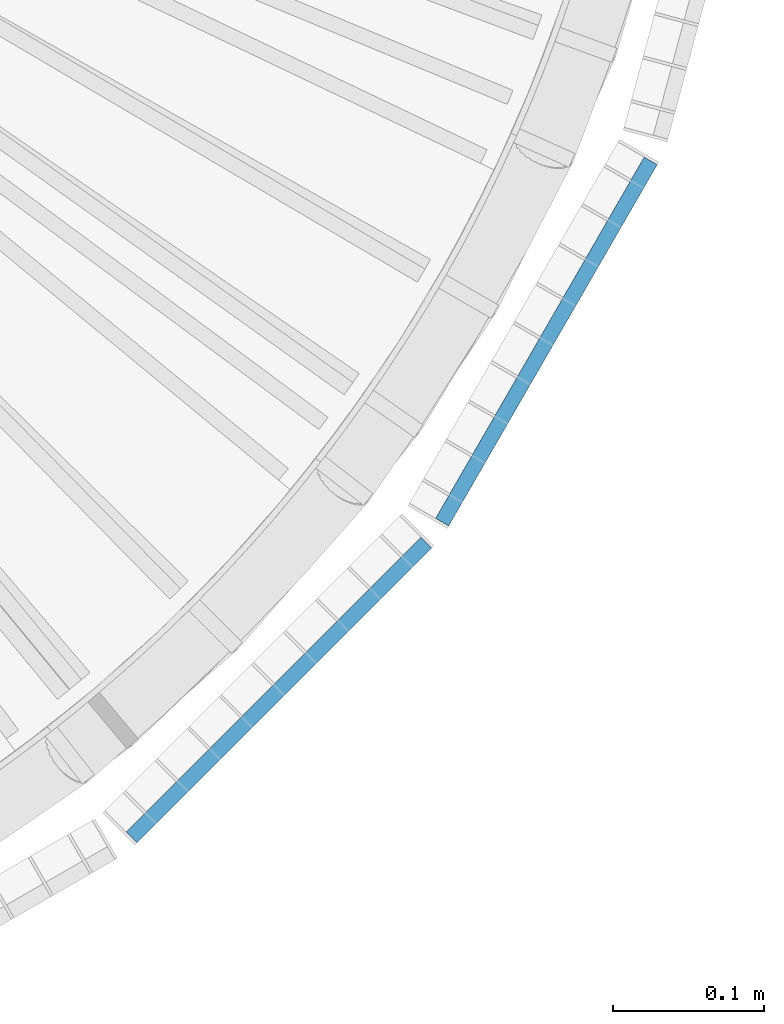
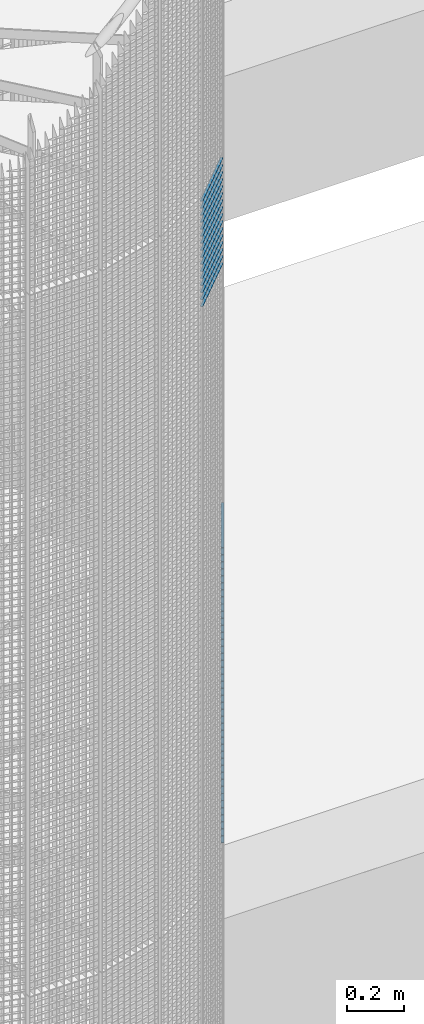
# One storey, part 246 of 1183: 59 beams, 2 elements without a shape of their own.
"""IFC2X3 building model written with IfcOpenShell, lengths in millimetres."""

from ifc_helpers import new_model, si_unit, frame, origin_with_axes, origin_2d_with_axis, place, context, subcontext, project, spatial, rectangle, extrude, material, type_object, element, aggregate, save


model = new_model("IFC2X3")

# Units and contexts
model_context = context("Model", 3, precision=1e-05, world=origin_with_axes())
body_context = subcontext(model_context, "Body", "Model", "MODEL_VIEW")
ifc_project = project(units=[si_unit("LENGTHUNIT", "METRE", prefix="MILLI"), si_unit("AREAUNIT", "SQUARE_METRE"), si_unit("VOLUMEUNIT", "CUBIC_METRE"), si_unit("MASSUNIT", "GRAM", prefix="KILO"), si_unit("TIMEUNIT", "SECOND"), si_unit("PLANEANGLEUNIT", "RADIAN"), si_unit("SOLIDANGLEUNIT", "STERADIAN"), si_unit("THERMODYNAMICTEMPERATUREUNIT", "DEGREE_CELSIUS"), si_unit("LUMINOUSINTENSITYUNIT", "LUMEN")], contexts=[model_context])

# Site, building, storey
site_placement = place(None, origin_with_axes())
site = spatial("IfcSite", under=ifc_project, at=site_placement, Name="Undefined", CompositionType="ELEMENT")
building_placement = place(site_placement, origin_with_axes())
building = spatial("IfcBuilding", under=site, at=building_placement, Name="Undefined", CompositionType="ELEMENT")
storey_placement = place(building_placement, origin_with_axes())
storey = spatial("IfcBuildingStorey", under=building, at=storey_placement, Name="Undefined", CompositionType="ELEMENT", Elevation=0.0)

# Assembly, beams
assembly_1_placement = place(storey_placement, origin_with_axes())
assembly_1 = element("IfcElementAssembly", 1, at=assembly_1_placement, inside=storey, Name="BORDURE", AssemblyPlace="NOTDEFINED", PredefinedType="NOTDEFINED")
ifc_material = material(Name="STEEL/S235JR")
beam_type = type_object("IfcBeamType", Name="PL2*10", PredefinedType="NOTDEFINED")
beam_1_placement = place(assembly_1_placement, frame((895.303964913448, -676.248044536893, 10290.0), z_axis=(0.866025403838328, -0.49999999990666, 0.0), x_axis=(0.49999999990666, 0.866025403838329, 0.0)))
beam_1 = element("IfcBeam", 2, at=beam_1_placement, type_object=beam_type, material=ifc_material, Name="ENTRETOISE", context=body_context, shape_type="SweptSolid", body=[
    extrude(rectangle(XDim=2.0, YDim=10.0, at=origin_2d_with_axis()), frame((275.999999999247, 9.09494701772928e-13, 1.53210777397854e-14), z_axis=(-1.0, 0.0, 0.0), x_axis=(0.0, -1.0, 0.0)), (0.0, 0.0, 1.0), 276.0),
])
beam_2_placement = place(assembly_1_placement, frame((895.303964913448, -676.248044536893, 10260.0), z_axis=(0.866025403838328, -0.49999999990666, 0.0), x_axis=(0.49999999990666, 0.866025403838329, 0.0)))
beam_2 = element("IfcBeam", 3, at=beam_2_placement, type_object=beam_type, material=ifc_material, Name="ENTRETOISE", context=body_context, shape_type="SweptSolid", body=[
    extrude(rectangle(XDim=2.0, YDim=10.0, at=origin_2d_with_axis()), frame((275.999999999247, 9.09494701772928e-13, 1.53210777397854e-14), z_axis=(-1.0, 0.0, 0.0), x_axis=(0.0, -1.0, 0.0)), (0.0, 0.0, 1.0), 276.0),
])
beam_3_placement = place(assembly_1_placement, frame((895.303964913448, -676.248044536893, 10230.0), z_axis=(0.866025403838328, -0.49999999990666, 0.0), x_axis=(0.49999999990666, 0.866025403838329, 0.0)))
beam_3 = element("IfcBeam", 4, at=beam_3_placement, type_object=beam_type, material=ifc_material, Name="ENTRETOISE", context=body_context, shape_type="SweptSolid", body=[
    extrude(rectangle(XDim=2.0, YDim=10.0, at=origin_2d_with_axis()), frame((275.999999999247, 9.09494701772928e-13, 1.53210777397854e-14), z_axis=(-1.0, 0.0, 0.0), x_axis=(0.0, -1.0, 0.0)), (0.0, 0.0, 1.0), 276.0),
])
beam_4_placement = place(assembly_1_placement, frame((895.303964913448, -676.248044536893, 10200.0), z_axis=(0.866025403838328, -0.49999999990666, 0.0), x_axis=(0.49999999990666, 0.866025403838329, 0.0)))
beam_4 = element("IfcBeam", 5, at=beam_4_placement, type_object=beam_type, material=ifc_material, Name="ENTRETOISE", context=body_context, shape_type="SweptSolid", body=[
    extrude(rectangle(XDim=2.0, YDim=10.0, at=origin_2d_with_axis()), frame((275.999999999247, 9.09494701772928e-13, 1.53210777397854e-14), z_axis=(-1.0, 0.0, 0.0), x_axis=(0.0, -1.0, 0.0)), (0.0, 0.0, 1.0), 276.0),
])
beam_5_placement = place(assembly_1_placement, frame((895.303964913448, -676.248044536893, 10170.0), z_axis=(0.866025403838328, -0.49999999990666, 0.0), x_axis=(0.49999999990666, 0.866025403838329, 0.0)))
beam_5 = element("IfcBeam", 6, at=beam_5_placement, type_object=beam_type, material=ifc_material, Name="ENTRETOISE", context=body_context, shape_type="SweptSolid", body=[
    extrude(rectangle(XDim=2.0, YDim=10.0, at=origin_2d_with_axis()), frame((275.999999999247, 9.09494701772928e-13, 1.53210777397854e-14), z_axis=(-1.0, 0.0, 0.0), x_axis=(0.0, -1.0, 0.0)), (0.0, 0.0, 1.0), 276.0),
])
beam_6_placement = place(assembly_1_placement, frame((895.303964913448, -676.248044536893, 10140.0), z_axis=(0.866025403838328, -0.49999999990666, 0.0), x_axis=(0.49999999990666, 0.866025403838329, 0.0)))
beam_6 = element("IfcBeam", 7, at=beam_6_placement, type_object=beam_type, material=ifc_material, Name="ENTRETOISE", context=body_context, shape_type="SweptSolid", body=[
    extrude(rectangle(XDim=2.0, YDim=10.0, at=origin_2d_with_axis()), frame((275.999999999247, 9.09494701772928e-13, 1.53210777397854e-14), z_axis=(-1.0, 0.0, 0.0), x_axis=(0.0, -1.0, 0.0)), (0.0, 0.0, 1.0), 276.0),
])
beam_7_placement = place(assembly_1_placement, frame((895.303964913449, -676.248044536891, 9720.0), z_axis=(0.866025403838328, -0.49999999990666, 0.0), x_axis=(0.49999999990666, 0.866025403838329, 0.0)))
beam_7 = element("IfcBeam", 8, at=beam_7_placement, type_object=beam_type, material=ifc_material, Name="ENTRETOISE", context=body_context, shape_type="SweptSolid", body=[
    extrude(rectangle(XDim=2.0, YDim=10.0, at=origin_2d_with_axis()), frame((275.999999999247, 9.09494701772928e-13, 1.53210777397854e-14), z_axis=(-1.0, 0.0, 0.0), x_axis=(0.0, -1.0, 0.0)), (0.0, 0.0, 1.0), 276.0),
])
beam_8_placement = place(assembly_1_placement, frame((895.303964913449, -676.248044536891, 9690.0), z_axis=(0.866025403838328, -0.49999999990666, 0.0), x_axis=(0.49999999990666, 0.866025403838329, 0.0)))
beam_8 = element("IfcBeam", 9, at=beam_8_placement, type_object=beam_type, material=ifc_material, Name="ENTRETOISE", context=body_context, shape_type="SweptSolid", body=[
    extrude(rectangle(XDim=2.0, YDim=10.0, at=origin_2d_with_axis()), frame((275.999999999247, 9.09494701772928e-13, 1.53210777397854e-14), z_axis=(-1.0, 0.0, 0.0), x_axis=(0.0, -1.0, 0.0)), (0.0, 0.0, 1.0), 276.0),
])
beam_9_placement = place(assembly_1_placement, frame((895.303964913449, -676.248044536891, 9750.0), z_axis=(0.866025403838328, -0.49999999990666, 0.0), x_axis=(0.49999999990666, 0.866025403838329, 0.0)))
beam_9 = element("IfcBeam", 10, at=beam_9_placement, type_object=beam_type, material=ifc_material, Name="ENTRETOISE", context=body_context, shape_type="SweptSolid", body=[
    extrude(rectangle(XDim=2.0, YDim=10.0, at=origin_2d_with_axis()), frame((275.999999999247, 9.09494701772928e-13, 1.53210777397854e-14), z_axis=(-1.0, 0.0, 0.0), x_axis=(0.0, -1.0, 0.0)), (0.0, 0.0, 1.0), 276.0),
])
beam_10_placement = place(assembly_1_placement, frame((895.303964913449, -676.248044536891, 9660.0), z_axis=(0.866025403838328, -0.49999999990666, 0.0), x_axis=(0.49999999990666, 0.866025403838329, 0.0)))
beam_10 = element("IfcBeam", 11, at=beam_10_placement, type_object=beam_type, material=ifc_material, Name="ENTRETOISE", context=body_context, shape_type="SweptSolid", body=[
    extrude(rectangle(XDim=2.0, YDim=10.0, at=origin_2d_with_axis()), frame((275.999999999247, 9.09494701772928e-13, 1.53210777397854e-14), z_axis=(-1.0, 0.0, 0.0), x_axis=(0.0, -1.0, 0.0)), (0.0, 0.0, 1.0), 276.0),
])
beam_11_placement = place(assembly_1_placement, frame((895.303964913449, -676.248044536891, 9630.0), z_axis=(0.866025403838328, -0.49999999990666, 0.0), x_axis=(0.49999999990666, 0.866025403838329, 0.0)))
beam_11 = element("IfcBeam", 12, at=beam_11_placement, type_object=beam_type, material=ifc_material, Name="ENTRETOISE", context=body_context, shape_type="SweptSolid", body=[
    extrude(rectangle(XDim=2.0, YDim=10.0, at=origin_2d_with_axis()), frame((275.999999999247, 9.09494701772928e-13, 1.53210777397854e-14), z_axis=(-1.0, 0.0, 0.0), x_axis=(0.0, -1.0, 0.0)), (0.0, 0.0, 1.0), 276.0),
])
beam_12_placement = place(assembly_1_placement, frame((895.303964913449, -676.248044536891, 9780.0), z_axis=(0.866025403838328, -0.49999999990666, 0.0), x_axis=(0.49999999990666, 0.866025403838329, 0.0)))
beam_12 = element("IfcBeam", 13, at=beam_12_placement, type_object=beam_type, material=ifc_material, Name="ENTRETOISE", context=body_context, shape_type="SweptSolid", body=[
    extrude(rectangle(XDim=2.0, YDim=10.0, at=origin_2d_with_axis()), frame((275.999999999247, 9.09494701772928e-13, 1.53210777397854e-14), z_axis=(-1.0, 0.0, 0.0), x_axis=(0.0, -1.0, 0.0)), (0.0, 0.0, 1.0), 276.0),
])
beam_13_placement = place(assembly_1_placement, frame((895.303964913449, -676.248044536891, 9600.0), z_axis=(0.866025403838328, -0.49999999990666, 0.0), x_axis=(0.49999999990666, 0.866025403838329, 0.0)))
beam_13 = element("IfcBeam", 14, at=beam_13_placement, type_object=beam_type, material=ifc_material, Name="ENTRETOISE", context=body_context, shape_type="SweptSolid", body=[
    extrude(rectangle(XDim=2.0, YDim=10.0, at=origin_2d_with_axis()), frame((275.999999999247, 9.09494701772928e-13, 1.53210777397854e-14), z_axis=(-1.0, 0.0, 0.0), x_axis=(0.0, -1.0, 0.0)), (0.0, 0.0, 1.0), 276.0),
])
beam_14_placement = place(assembly_1_placement, frame((895.303964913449, -676.248044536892, 9810.0), z_axis=(0.866025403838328, -0.49999999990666, 0.0), x_axis=(0.49999999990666, 0.866025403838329, 0.0)))
beam_14 = element("IfcBeam", 15, at=beam_14_placement, type_object=beam_type, material=ifc_material, Name="ENTRETOISE", context=body_context, shape_type="SweptSolid", body=[
    extrude(rectangle(XDim=2.0, YDim=10.0, at=origin_2d_with_axis()), frame((275.999999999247, 9.09494701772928e-13, 1.53210777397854e-14), z_axis=(-1.0, 0.0, 0.0), x_axis=(0.0, -1.0, 0.0)), (0.0, 0.0, 1.0), 276.0),
])
beam_15_placement = place(assembly_1_placement, frame((895.30396491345, -676.248044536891, 9570.0), z_axis=(0.866025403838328, -0.49999999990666, 0.0), x_axis=(0.49999999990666, 0.866025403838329, 0.0)))
beam_15 = element("IfcBeam", 16, at=beam_15_placement, type_object=beam_type, material=ifc_material, Name="ENTRETOISE", context=body_context, shape_type="SweptSolid", body=[
    extrude(rectangle(XDim=2.0, YDim=10.0, at=origin_2d_with_axis()), frame((275.999999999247, 9.09494701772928e-13, 1.53210777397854e-14), z_axis=(-1.0, 0.0, 0.0), x_axis=(0.0, -1.0, 0.0)), (0.0, 0.0, 1.0), 276.0),
])
beam_16_placement = place(assembly_1_placement, frame((895.30396491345, -676.248044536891, 9540.0), z_axis=(0.866025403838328, -0.49999999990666, 0.0), x_axis=(0.49999999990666, 0.866025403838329, 0.0)))
beam_16 = element("IfcBeam", 17, at=beam_16_placement, type_object=beam_type, material=ifc_material, Name="ENTRETOISE", context=body_context, shape_type="SweptSolid", body=[
    extrude(rectangle(XDim=2.0, YDim=10.0, at=origin_2d_with_axis()), frame((275.999999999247, 9.09494701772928e-13, 1.53210777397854e-14), z_axis=(-1.0, 0.0, 0.0), x_axis=(0.0, -1.0, 0.0)), (0.0, 0.0, 1.0), 276.0),
])
beam_17_placement = place(assembly_1_placement, frame((895.303964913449, -676.248044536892, 9840.0), z_axis=(0.866025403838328, -0.49999999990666, 0.0), x_axis=(0.49999999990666, 0.866025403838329, 0.0)))
beam_17 = element("IfcBeam", 18, at=beam_17_placement, type_object=beam_type, material=ifc_material, Name="ENTRETOISE", context=body_context, shape_type="SweptSolid", body=[
    extrude(rectangle(XDim=2.0, YDim=10.0, at=origin_2d_with_axis()), frame((275.999999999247, 9.09494701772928e-13, 1.53210777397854e-14), z_axis=(-1.0, 0.0, 0.0), x_axis=(0.0, -1.0, 0.0)), (0.0, 0.0, 1.0), 276.0),
])
beam_18_placement = place(assembly_1_placement, frame((895.303964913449, -676.248044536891, 9510.0), z_axis=(0.866025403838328, -0.49999999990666, 0.0), x_axis=(0.49999999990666, 0.866025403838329, 0.0)))
beam_18 = element("IfcBeam", 19, at=beam_18_placement, type_object=beam_type, material=ifc_material, Name="ENTRETOISE", context=body_context, shape_type="SweptSolid", body=[
    extrude(rectangle(XDim=2.0, YDim=10.0, at=origin_2d_with_axis()), frame((275.999999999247, 9.09494701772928e-13, 1.53210777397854e-14), z_axis=(-1.0, 0.0, 0.0), x_axis=(0.0, -1.0, 0.0)), (0.0, 0.0, 1.0), 276.0),
])
beam_19_placement = place(assembly_1_placement, frame((895.303964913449, -676.248044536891, 9480.0), z_axis=(0.866025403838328, -0.49999999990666, 0.0), x_axis=(0.49999999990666, 0.866025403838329, 0.0)))
beam_19 = element("IfcBeam", 20, at=beam_19_placement, type_object=beam_type, material=ifc_material, Name="ENTRETOISE", context=body_context, shape_type="SweptSolid", body=[
    extrude(rectangle(XDim=2.0, YDim=10.0, at=origin_2d_with_axis()), frame((275.999999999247, 9.09494701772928e-13, 1.53210777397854e-14), z_axis=(-1.0, 0.0, 0.0), x_axis=(0.0, -1.0, 0.0)), (0.0, 0.0, 1.0), 276.0),
])
beam_20_placement = place(assembly_1_placement, frame((895.303964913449, -676.248044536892, 9870.0), z_axis=(0.866025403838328, -0.49999999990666, 0.0), x_axis=(0.49999999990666, 0.866025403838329, 0.0)))
beam_20 = element("IfcBeam", 21, at=beam_20_placement, type_object=beam_type, material=ifc_material, Name="ENTRETOISE", context=body_context, shape_type="SweptSolid", body=[
    extrude(rectangle(XDim=2.0, YDim=10.0, at=origin_2d_with_axis()), frame((275.999999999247, 9.09494701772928e-13, 1.53210777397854e-14), z_axis=(-1.0, 0.0, 0.0), x_axis=(0.0, -1.0, 0.0)), (0.0, 0.0, 1.0), 276.0),
])
beam_21_placement = place(assembly_1_placement, frame((895.30396491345, -676.248044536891, 9450.0), z_axis=(0.866025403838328, -0.49999999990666, 0.0), x_axis=(0.49999999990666, 0.866025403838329, 0.0)))
beam_21 = element("IfcBeam", 22, at=beam_21_placement, type_object=beam_type, material=ifc_material, Name="ENTRETOISE", context=body_context, shape_type="SweptSolid", body=[
    extrude(rectangle(XDim=2.0, YDim=10.0, at=origin_2d_with_axis()), frame((275.999999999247, 9.09494701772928e-13, 1.53210777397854e-14), z_axis=(-1.0, 0.0, 0.0), x_axis=(0.0, -1.0, 0.0)), (0.0, 0.0, 1.0), 276.0),
])
beam_22_placement = place(assembly_1_placement, frame((895.30396491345, -676.24804453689, 9420.0), z_axis=(0.866025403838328, -0.49999999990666, 0.0), x_axis=(0.49999999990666, 0.866025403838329, 0.0)))
beam_22 = element("IfcBeam", 23, at=beam_22_placement, type_object=beam_type, material=ifc_material, Name="ENTRETOISE", context=body_context, shape_type="SweptSolid", body=[
    extrude(rectangle(XDim=2.0, YDim=10.0, at=origin_2d_with_axis()), frame((275.999999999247, 9.09494701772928e-13, 1.53210777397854e-14), z_axis=(-1.0, 0.0, 0.0), x_axis=(0.0, -1.0, 0.0)), (0.0, 0.0, 1.0), 276.0),
])
beam_23_placement = place(assembly_1_placement, frame((895.303964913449, -676.248044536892, 9900.0), z_axis=(0.866025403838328, -0.49999999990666, 0.0), x_axis=(0.49999999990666, 0.866025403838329, 0.0)))
beam_23 = element("IfcBeam", 24, at=beam_23_placement, type_object=beam_type, material=ifc_material, Name="ENTRETOISE", context=body_context, shape_type="SweptSolid", body=[
    extrude(rectangle(XDim=2.0, YDim=10.0, at=origin_2d_with_axis()), frame((275.999999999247, 9.09494701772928e-13, 1.53210777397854e-14), z_axis=(-1.0, 0.0, 0.0), x_axis=(0.0, -1.0, 0.0)), (0.0, 0.0, 1.0), 276.0),
])
beam_24_placement = place(assembly_1_placement, frame((895.30396491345, -676.24804453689, 9390.0), z_axis=(0.866025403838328, -0.49999999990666, 0.0), x_axis=(0.49999999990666, 0.866025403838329, 0.0)))
beam_24 = element("IfcBeam", 25, at=beam_24_placement, type_object=beam_type, material=ifc_material, Name="ENTRETOISE", context=body_context, shape_type="SweptSolid", body=[
    extrude(rectangle(XDim=2.0, YDim=10.0, at=origin_2d_with_axis()), frame((275.999999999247, 9.09494701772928e-13, 1.53210777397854e-14), z_axis=(-1.0, 0.0, 0.0), x_axis=(0.0, -1.0, 0.0)), (0.0, 0.0, 1.0), 276.0),
])
beam_25_placement = place(assembly_1_placement, frame((895.303964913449, -676.248044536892, 9930.0), z_axis=(0.866025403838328, -0.49999999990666, 0.0), x_axis=(0.49999999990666, 0.866025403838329, 0.0)))
beam_25 = element("IfcBeam", 26, at=beam_25_placement, type_object=beam_type, material=ifc_material, Name="ENTRETOISE", context=body_context, shape_type="SweptSolid", body=[
    extrude(rectangle(XDim=2.0, YDim=10.0, at=origin_2d_with_axis()), frame((275.999999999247, 9.09494701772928e-13, 1.53210777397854e-14), z_axis=(-1.0, 0.0, 0.0), x_axis=(0.0, -1.0, 0.0)), (0.0, 0.0, 1.0), 276.0),
])
beam_26_placement = place(assembly_1_placement, frame((895.30396491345, -676.24804453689, 9360.0), z_axis=(0.866025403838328, -0.49999999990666, 0.0), x_axis=(0.49999999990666, 0.866025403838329, 0.0)))
beam_26 = element("IfcBeam", 27, at=beam_26_placement, type_object=beam_type, material=ifc_material, Name="ENTRETOISE", context=body_context, shape_type="SweptSolid", body=[
    extrude(rectangle(XDim=2.0, YDim=10.0, at=origin_2d_with_axis()), frame((275.999999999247, 9.09494701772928e-13, 1.53210777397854e-14), z_axis=(-1.0, 0.0, 0.0), x_axis=(0.0, -1.0, 0.0)), (0.0, 0.0, 1.0), 276.0),
])
beam_27_placement = place(assembly_1_placement, frame((895.30396491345, -676.24804453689, 9330.0), z_axis=(0.866025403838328, -0.49999999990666, 0.0), x_axis=(0.49999999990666, 0.866025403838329, 0.0)))
beam_27 = element("IfcBeam", 28, at=beam_27_placement, type_object=beam_type, material=ifc_material, Name="ENTRETOISE", context=body_context, shape_type="SweptSolid", body=[
    extrude(rectangle(XDim=2.0, YDim=10.0, at=origin_2d_with_axis()), frame((275.999999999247, 9.09494701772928e-13, 1.53210777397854e-14), z_axis=(-1.0, 0.0, 0.0), x_axis=(0.0, -1.0, 0.0)), (0.0, 0.0, 1.0), 276.0),
])
beam_28_placement = place(assembly_1_placement, frame((895.303964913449, -676.248044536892, 9960.0), z_axis=(0.866025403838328, -0.49999999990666, 0.0), x_axis=(0.49999999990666, 0.866025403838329, 0.0)))
beam_28 = element("IfcBeam", 29, at=beam_28_placement, type_object=beam_type, material=ifc_material, Name="ENTRETOISE", context=body_context, shape_type="SweptSolid", body=[
    extrude(rectangle(XDim=2.0, YDim=10.0, at=origin_2d_with_axis()), frame((275.999999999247, 9.09494701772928e-13, 1.53210777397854e-14), z_axis=(-1.0, 0.0, 0.0), x_axis=(0.0, -1.0, 0.0)), (0.0, 0.0, 1.0), 276.0),
])
beam_29_placement = place(assembly_1_placement, frame((895.30396491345, -676.24804453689, 9300.0), z_axis=(0.866025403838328, -0.49999999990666, 0.0), x_axis=(0.49999999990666, 0.866025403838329, 0.0)))
beam_29 = element("IfcBeam", 30, at=beam_29_placement, type_object=beam_type, material=ifc_material, Name="ENTRETOISE", context=body_context, shape_type="SweptSolid", body=[
    extrude(rectangle(XDim=2.0, YDim=10.0, at=origin_2d_with_axis()), frame((275.999999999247, 9.09494701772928e-13, 1.53210777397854e-14), z_axis=(-1.0, 0.0, 0.0), x_axis=(0.0, -1.0, 0.0)), (0.0, 0.0, 1.0), 276.0),
])
beam_30_placement = place(assembly_1_placement, frame((895.30396491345, -676.24804453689, 9270.0), z_axis=(0.866025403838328, -0.49999999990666, 0.0), x_axis=(0.49999999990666, 0.866025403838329, 0.0)))
beam_30 = element("IfcBeam", 31, at=beam_30_placement, type_object=beam_type, material=ifc_material, Name="ENTRETOISE", context=body_context, shape_type="SweptSolid", body=[
    extrude(rectangle(XDim=2.0, YDim=10.0, at=origin_2d_with_axis()), frame((275.999999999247, 9.09494701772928e-13, 1.53210777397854e-14), z_axis=(-1.0, 0.0, 0.0), x_axis=(0.0, -1.0, 0.0)), (0.0, 0.0, 1.0), 276.0),
])
beam_31_placement = place(assembly_1_placement, frame((895.303964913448, -676.248044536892, 9990.0), z_axis=(0.866025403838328, -0.49999999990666, 0.0), x_axis=(0.49999999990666, 0.866025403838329, 0.0)))
beam_31 = element("IfcBeam", 32, at=beam_31_placement, type_object=beam_type, material=ifc_material, Name="ENTRETOISE", context=body_context, shape_type="SweptSolid", body=[
    extrude(rectangle(XDim=2.0, YDim=10.0, at=origin_2d_with_axis()), frame((275.999999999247, 9.09494701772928e-13, 1.53210777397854e-14), z_axis=(-1.0, 0.0, 0.0), x_axis=(0.0, -1.0, 0.0)), (0.0, 0.0, 1.0), 276.0),
])
beam_32_placement = place(assembly_1_placement, frame((895.30396491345, -676.24804453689, 9240.0), z_axis=(0.866025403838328, -0.49999999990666, 0.0), x_axis=(0.49999999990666, 0.866025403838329, 0.0)))
beam_32 = element("IfcBeam", 33, at=beam_32_placement, type_object=beam_type, material=ifc_material, Name="ENTRETOISE", context=body_context, shape_type="SweptSolid", body=[
    extrude(rectangle(XDim=2.0, YDim=10.0, at=origin_2d_with_axis()), frame((275.999999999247, 9.09494701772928e-13, 1.53210777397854e-14), z_axis=(-1.0, 0.0, 0.0), x_axis=(0.0, -1.0, 0.0)), (0.0, 0.0, 1.0), 276.0),
])
beam_33_placement = place(assembly_1_placement, frame((895.303964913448, -676.248044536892, 10020.0), z_axis=(0.866025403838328, -0.49999999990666, 0.0), x_axis=(0.49999999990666, 0.866025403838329, 0.0)))
beam_33 = element("IfcBeam", 34, at=beam_33_placement, type_object=beam_type, material=ifc_material, Name="ENTRETOISE", context=body_context, shape_type="SweptSolid", body=[
    extrude(rectangle(XDim=2.0, YDim=10.0, at=origin_2d_with_axis()), frame((275.999999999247, 9.09494701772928e-13, 1.53210777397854e-14), z_axis=(-1.0, 0.0, 0.0), x_axis=(0.0, -1.0, 0.0)), (0.0, 0.0, 1.0), 276.0),
])
beam_34_placement = place(assembly_1_placement, frame((895.30396491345, -676.24804453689, 9210.0), z_axis=(0.866025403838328, -0.49999999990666, 0.0), x_axis=(0.49999999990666, 0.866025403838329, 0.0)))
beam_34 = element("IfcBeam", 35, at=beam_34_placement, type_object=beam_type, material=ifc_material, Name="ENTRETOISE", context=body_context, shape_type="SweptSolid", body=[
    extrude(rectangle(XDim=2.0, YDim=10.0, at=origin_2d_with_axis()), frame((275.999999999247, 9.09494701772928e-13, 1.53210777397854e-14), z_axis=(-1.0, 0.0, 0.0), x_axis=(0.0, -1.0, 0.0)), (0.0, 0.0, 1.0), 276.0),
])
beam_35_placement = place(assembly_1_placement, frame((895.30396491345, -676.24804453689, 9180.0), z_axis=(0.866025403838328, -0.49999999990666, 0.0), x_axis=(0.49999999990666, 0.866025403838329, 0.0)))
beam_35 = element("IfcBeam", 36, at=beam_35_placement, type_object=beam_type, material=ifc_material, Name="ENTRETOISE", context=body_context, shape_type="SweptSolid", body=[
    extrude(rectangle(XDim=2.0, YDim=10.0, at=origin_2d_with_axis()), frame((275.999999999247, 9.09494701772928e-13, 1.53210777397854e-14), z_axis=(-1.0, 0.0, 0.0), x_axis=(0.0, -1.0, 0.0)), (0.0, 0.0, 1.0), 276.0),
])
beam_36_placement = place(assembly_1_placement, frame((895.303964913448, -676.248044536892, 10050.0), z_axis=(0.866025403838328, -0.49999999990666, 0.0), x_axis=(0.49999999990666, 0.866025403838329, 0.0)))
beam_36 = element("IfcBeam", 37, at=beam_36_placement, type_object=beam_type, material=ifc_material, Name="ENTRETOISE", context=body_context, shape_type="SweptSolid", body=[
    extrude(rectangle(XDim=2.0, YDim=10.0, at=origin_2d_with_axis()), frame((275.999999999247, 9.09494701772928e-13, 1.53210777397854e-14), z_axis=(-1.0, 0.0, 0.0), x_axis=(0.0, -1.0, 0.0)), (0.0, 0.0, 1.0), 276.0),
])
beam_37_placement = place(assembly_1_placement, frame((895.30396491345, -676.24804453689, 9150.0), z_axis=(0.866025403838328, -0.49999999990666, 0.0), x_axis=(0.49999999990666, 0.866025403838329, 0.0)))
beam_37 = element("IfcBeam", 38, at=beam_37_placement, type_object=beam_type, material=ifc_material, Name="ENTRETOISE", context=body_context, shape_type="SweptSolid", body=[
    extrude(rectangle(XDim=2.0, YDim=10.0, at=origin_2d_with_axis()), frame((275.999999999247, 9.09494701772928e-13, 1.53210777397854e-14), z_axis=(-1.0, 0.0, 0.0), x_axis=(0.0, -1.0, 0.0)), (0.0, 0.0, 1.0), 276.0),
])
beam_38_placement = place(assembly_1_placement, frame((895.30396491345, -676.24804453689, 9120.0), z_axis=(0.866025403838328, -0.49999999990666, 0.0), x_axis=(0.49999999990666, 0.866025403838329, 0.0)))
beam_38 = element("IfcBeam", 39, at=beam_38_placement, type_object=beam_type, material=ifc_material, Name="ENTRETOISE", context=body_context, shape_type="SweptSolid", body=[
    extrude(rectangle(XDim=2.0, YDim=10.0, at=origin_2d_with_axis()), frame((275.999999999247, 9.09494701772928e-13, 1.53210777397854e-14), z_axis=(-1.0, 0.0, 0.0), x_axis=(0.0, -1.0, 0.0)), (0.0, 0.0, 1.0), 276.0),
])
beam_39_placement = place(assembly_1_placement, frame((895.303964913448, -676.248044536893, 10080.0), z_axis=(0.866025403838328, -0.49999999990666, 0.0), x_axis=(0.49999999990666, 0.866025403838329, 0.0)))
beam_39 = element("IfcBeam", 40, at=beam_39_placement, type_object=beam_type, material=ifc_material, Name="ENTRETOISE", context=body_context, shape_type="SweptSolid", body=[
    extrude(rectangle(XDim=2.0, YDim=10.0, at=origin_2d_with_axis()), frame((275.999999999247, 9.09494701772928e-13, 1.53210777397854e-14), z_axis=(-1.0, 0.0, 0.0), x_axis=(0.0, -1.0, 0.0)), (0.0, 0.0, 1.0), 276.0),
])
beam_40_placement = place(assembly_1_placement, frame((895.30396491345, -676.248044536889, 9090.0), z_axis=(0.866025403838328, -0.49999999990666, 0.0), x_axis=(0.49999999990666, 0.866025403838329, 0.0)))
beam_40 = element("IfcBeam", 41, at=beam_40_placement, type_object=beam_type, material=ifc_material, Name="ENTRETOISE", context=body_context, shape_type="SweptSolid", body=[
    extrude(rectangle(XDim=2.0, YDim=10.0, at=origin_2d_with_axis()), frame((275.999999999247, 9.09494701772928e-13, 1.53210777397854e-14), z_axis=(-1.0, 0.0, 0.0), x_axis=(0.0, -1.0, 0.0)), (0.0, 0.0, 1.0), 276.0),
])
beam_41_placement = place(assembly_1_placement, frame((895.30396491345, -676.248044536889, 9060.0), z_axis=(0.866025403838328, -0.49999999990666, 0.0), x_axis=(0.49999999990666, 0.866025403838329, 0.0)))
beam_41 = element("IfcBeam", 42, at=beam_41_placement, type_object=beam_type, material=ifc_material, Name="ENTRETOISE", context=body_context, shape_type="SweptSolid", body=[
    extrude(rectangle(XDim=2.0, YDim=10.0, at=origin_2d_with_axis()), frame((275.999999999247, 9.09494701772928e-13, 1.53210777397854e-14), z_axis=(-1.0, 0.0, 0.0), x_axis=(0.0, -1.0, 0.0)), (0.0, 0.0, 1.0), 276.0),
])
beam_42_placement = place(assembly_1_placement, frame((895.303964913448, -676.248044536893, 10110.0), z_axis=(0.866025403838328, -0.49999999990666, 0.0), x_axis=(0.49999999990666, 0.866025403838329, 0.0)))
beam_42 = element("IfcBeam", 43, at=beam_42_placement, type_object=beam_type, material=ifc_material, Name="ENTRETOISE", context=body_context, shape_type="SweptSolid", body=[
    extrude(rectangle(XDim=2.0, YDim=10.0, at=origin_2d_with_axis()), frame((275.999999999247, 9.09494701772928e-13, 1.53210777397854e-14), z_axis=(-1.0, 0.0, 0.0), x_axis=(0.0, -1.0, 0.0)), (0.0, 0.0, 1.0), 276.0),
])
beam_43_placement = place(assembly_1_placement, frame((895.30396491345, -676.248044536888, 9030.0), z_axis=(0.866025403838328, -0.49999999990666, 0.0), x_axis=(0.49999999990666, 0.866025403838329, 0.0)))
beam_43 = element("IfcBeam", 44, at=beam_43_placement, type_object=beam_type, material=ifc_material, Name="ENTRETOISE", context=body_context, shape_type="SweptSolid", body=[
    extrude(rectangle(XDim=2.0, YDim=10.0, at=origin_2d_with_axis()), frame((275.999999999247, 9.09494701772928e-13, 1.53210777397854e-14), z_axis=(-1.0, 0.0, 0.0), x_axis=(0.0, -1.0, 0.0)), (0.0, 0.0, 1.0), 276.0),
])
aggregate(assembly_1, [beam_1, beam_2, beam_3, beam_4, beam_5, beam_6, beam_7, beam_8, beam_9, beam_10, beam_11, beam_12, beam_13, beam_14, beam_15, beam_16, beam_17, beam_18, beam_19, beam_20, beam_21, beam_22, beam_23, beam_24, beam_25, beam_26, beam_27, beam_28, beam_29, beam_30, beam_31, beam_32, beam_33, beam_34, beam_35, beam_36, beam_37, beam_38, beam_39, beam_40, beam_41, beam_42, beam_43])

assembly_2_placement = place(storey_placement, origin_with_axes())
assembly_2 = element("IfcElementAssembly", 45, at=assembly_2_placement, inside=storey, Name="BORDURE", AssemblyPlace="NOTDEFINED", PredefinedType="NOTDEFINED")
beam_44_placement = place(assembly_2_placement, frame((689.771348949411, -884.927168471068, 11970.0), z_axis=(0.707106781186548, -0.707106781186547, 0.0), x_axis=(0.707106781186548, 0.707106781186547, 0.0)))
beam_44 = element("IfcBeam", 46, at=beam_44_placement, type_object=beam_type, material=ifc_material, Name="ENTRETOISE", context=body_context, shape_type="SweptSolid", body=[
    extrude(rectangle(XDim=2.0, YDim=10.0, at=origin_2d_with_axis()), frame((275.999999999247, 9.09494701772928e-13, 1.53210777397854e-14), z_axis=(-1.0, 0.0, 0.0), x_axis=(0.0, -1.0, 0.0)), (0.0, 0.0, 1.0), 276.0),
])
beam_45_placement = place(assembly_2_placement, frame((689.771348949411, -884.927168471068, 11940.0), z_axis=(0.707106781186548, -0.707106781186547, 0.0), x_axis=(0.707106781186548, 0.707106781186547, 0.0)))
beam_45 = element("IfcBeam", 47, at=beam_45_placement, type_object=beam_type, material=ifc_material, Name="ENTRETOISE", context=body_context, shape_type="SweptSolid", body=[
    extrude(rectangle(XDim=2.0, YDim=10.0, at=origin_2d_with_axis()), frame((275.999999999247, 9.09494701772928e-13, 1.53210777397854e-14), z_axis=(-1.0, 0.0, 0.0), x_axis=(0.0, -1.0, 0.0)), (0.0, 0.0, 1.0), 276.0),
])
beam_46_placement = place(assembly_2_placement, frame((689.771348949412, -884.927168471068, 11910.0), z_axis=(0.707106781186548, -0.707106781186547, 0.0), x_axis=(0.707106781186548, 0.707106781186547, 0.0)))
beam_46 = element("IfcBeam", 48, at=beam_46_placement, type_object=beam_type, material=ifc_material, Name="ENTRETOISE", context=body_context, shape_type="SweptSolid", body=[
    extrude(rectangle(XDim=2.0, YDim=10.0, at=origin_2d_with_axis()), frame((275.999999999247, 9.09494701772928e-13, 1.53210777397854e-14), z_axis=(-1.0, 0.0, 0.0), x_axis=(0.0, -1.0, 0.0)), (0.0, 0.0, 1.0), 276.0),
])
beam_47_placement = place(assembly_2_placement, frame((689.771348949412, -884.927168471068, 11880.0), z_axis=(0.707106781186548, -0.707106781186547, 0.0), x_axis=(0.707106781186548, 0.707106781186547, 0.0)))
beam_47 = element("IfcBeam", 49, at=beam_47_placement, type_object=beam_type, material=ifc_material, Name="ENTRETOISE", context=body_context, shape_type="SweptSolid", body=[
    extrude(rectangle(XDim=2.0, YDim=10.0, at=origin_2d_with_axis()), frame((275.999999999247, 9.09494701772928e-13, 1.53210777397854e-14), z_axis=(-1.0, 0.0, 0.0), x_axis=(0.0, -1.0, 0.0)), (0.0, 0.0, 1.0), 276.0),
])
beam_48_placement = place(assembly_2_placement, frame((689.771348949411, -884.927168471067, 11850.0), z_axis=(0.707106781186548, -0.707106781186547, 0.0), x_axis=(0.707106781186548, 0.707106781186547, 0.0)))
beam_48 = element("IfcBeam", 50, at=beam_48_placement, type_object=beam_type, material=ifc_material, Name="ENTRETOISE", context=body_context, shape_type="SweptSolid", body=[
    extrude(rectangle(XDim=2.0, YDim=10.0, at=origin_2d_with_axis()), frame((275.999999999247, 9.09494701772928e-13, 1.53210777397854e-14), z_axis=(-1.0, 0.0, 0.0), x_axis=(0.0, -1.0, 0.0)), (0.0, 0.0, 1.0), 276.0),
])
beam_49_placement = place(assembly_2_placement, frame((689.771348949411, -884.927168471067, 11820.0), z_axis=(0.707106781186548, -0.707106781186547, 0.0), x_axis=(0.707106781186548, 0.707106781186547, 0.0)))
beam_49 = element("IfcBeam", 51, at=beam_49_placement, type_object=beam_type, material=ifc_material, Name="ENTRETOISE", context=body_context, shape_type="SweptSolid", body=[
    extrude(rectangle(XDim=2.0, YDim=10.0, at=origin_2d_with_axis()), frame((275.999999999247, 9.09494701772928e-13, 1.53210777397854e-14), z_axis=(-1.0, 0.0, 0.0), x_axis=(0.0, -1.0, 0.0)), (0.0, 0.0, 1.0), 276.0),
])
beam_50_placement = place(assembly_2_placement, frame((689.771348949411, -884.927168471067, 11790.0), z_axis=(0.707106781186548, -0.707106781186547, 0.0), x_axis=(0.707106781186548, 0.707106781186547, 0.0)))
beam_50 = element("IfcBeam", 52, at=beam_50_placement, type_object=beam_type, material=ifc_material, Name="ENTRETOISE", context=body_context, shape_type="SweptSolid", body=[
    extrude(rectangle(XDim=2.0, YDim=10.0, at=origin_2d_with_axis()), frame((275.999999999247, 9.09494701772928e-13, 1.53210777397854e-14), z_axis=(-1.0, 0.0, 0.0), x_axis=(0.0, -1.0, 0.0)), (0.0, 0.0, 1.0), 276.0),
])
beam_51_placement = place(assembly_2_placement, frame((689.771348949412, -884.927168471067, 11760.0), z_axis=(0.707106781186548, -0.707106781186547, 0.0), x_axis=(0.707106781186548, 0.707106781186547, 0.0)))
beam_51 = element("IfcBeam", 53, at=beam_51_placement, type_object=beam_type, material=ifc_material, Name="ENTRETOISE", context=body_context, shape_type="SweptSolid", body=[
    extrude(rectangle(XDim=2.0, YDim=10.0, at=origin_2d_with_axis()), frame((275.999999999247, 9.09494701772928e-13, 1.53210777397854e-14), z_axis=(-1.0, 0.0, 0.0), x_axis=(0.0, -1.0, 0.0)), (0.0, 0.0, 1.0), 276.0),
])
beam_52_placement = place(assembly_2_placement, frame((689.771348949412, -884.927168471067, 11730.0), z_axis=(0.707106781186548, -0.707106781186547, 0.0), x_axis=(0.707106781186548, 0.707106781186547, 0.0)))
beam_52 = element("IfcBeam", 54, at=beam_52_placement, type_object=beam_type, material=ifc_material, Name="ENTRETOISE", context=body_context, shape_type="SweptSolid", body=[
    extrude(rectangle(XDim=2.0, YDim=10.0, at=origin_2d_with_axis()), frame((275.999999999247, 9.09494701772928e-13, 1.53210777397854e-14), z_axis=(-1.0, 0.0, 0.0), x_axis=(0.0, -1.0, 0.0)), (0.0, 0.0, 1.0), 276.0),
])
beam_53_placement = place(assembly_2_placement, frame((689.771348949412, -884.927168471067, 11700.0), z_axis=(0.707106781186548, -0.707106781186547, 0.0), x_axis=(0.707106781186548, 0.707106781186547, 0.0)))
beam_53 = element("IfcBeam", 55, at=beam_53_placement, type_object=beam_type, material=ifc_material, Name="ENTRETOISE", context=body_context, shape_type="SweptSolid", body=[
    extrude(rectangle(XDim=2.0, YDim=10.0, at=origin_2d_with_axis()), frame((275.999999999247, 9.09494701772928e-13, 1.53210777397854e-14), z_axis=(-1.0, 0.0, 0.0), x_axis=(0.0, -1.0, 0.0)), (0.0, 0.0, 1.0), 276.0),
])
beam_54_placement = place(assembly_2_placement, frame((689.771348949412, -884.927168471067, 11670.0), z_axis=(0.707106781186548, -0.707106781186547, 0.0), x_axis=(0.707106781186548, 0.707106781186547, 0.0)))
beam_54 = element("IfcBeam", 56, at=beam_54_placement, type_object=beam_type, material=ifc_material, Name="ENTRETOISE", context=body_context, shape_type="SweptSolid", body=[
    extrude(rectangle(XDim=2.0, YDim=10.0, at=origin_2d_with_axis()), frame((275.999999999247, 9.09494701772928e-13, 1.53210777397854e-14), z_axis=(-1.0, 0.0, 0.0), x_axis=(0.0, -1.0, 0.0)), (0.0, 0.0, 1.0), 276.0),
])
beam_55_placement = place(assembly_2_placement, frame((689.771348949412, -884.927168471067, 11640.0), z_axis=(0.707106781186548, -0.707106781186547, 0.0), x_axis=(0.707106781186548, 0.707106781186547, 0.0)))
beam_55 = element("IfcBeam", 57, at=beam_55_placement, type_object=beam_type, material=ifc_material, Name="ENTRETOISE", context=body_context, shape_type="SweptSolid", body=[
    extrude(rectangle(XDim=2.0, YDim=10.0, at=origin_2d_with_axis()), frame((275.999999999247, 9.09494701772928e-13, 1.53210777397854e-14), z_axis=(-1.0, 0.0, 0.0), x_axis=(0.0, -1.0, 0.0)), (0.0, 0.0, 1.0), 276.0),
])
beam_56_placement = place(assembly_2_placement, frame((689.771348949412, -884.927168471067, 11610.0), z_axis=(0.707106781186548, -0.707106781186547, 0.0), x_axis=(0.707106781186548, 0.707106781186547, 0.0)))
beam_56 = element("IfcBeam", 58, at=beam_56_placement, type_object=beam_type, material=ifc_material, Name="ENTRETOISE", context=body_context, shape_type="SweptSolid", body=[
    extrude(rectangle(XDim=2.0, YDim=10.0, at=origin_2d_with_axis()), frame((275.999999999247, 9.09494701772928e-13, 1.53210777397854e-14), z_axis=(-1.0, 0.0, 0.0), x_axis=(0.0, -1.0, 0.0)), (0.0, 0.0, 1.0), 276.0),
])
beam_57_placement = place(assembly_2_placement, frame((689.771348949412, -884.927168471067, 11580.0), z_axis=(0.707106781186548, -0.707106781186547, 0.0), x_axis=(0.707106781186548, 0.707106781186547, 0.0)))
beam_57 = element("IfcBeam", 59, at=beam_57_placement, type_object=beam_type, material=ifc_material, Name="ENTRETOISE", context=body_context, shape_type="SweptSolid", body=[
    extrude(rectangle(XDim=2.0, YDim=10.0, at=origin_2d_with_axis()), frame((275.999999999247, 9.09494701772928e-13, 1.53210777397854e-14), z_axis=(-1.0, 0.0, 0.0), x_axis=(0.0, -1.0, 0.0)), (0.0, 0.0, 1.0), 276.0),
])
beam_58_placement = place(assembly_2_placement, frame((689.771348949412, -884.927168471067, 11550.0), z_axis=(0.707106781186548, -0.707106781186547, 0.0), x_axis=(0.707106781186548, 0.707106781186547, 0.0)))
beam_58 = element("IfcBeam", 60, at=beam_58_placement, type_object=beam_type, material=ifc_material, Name="ENTRETOISE", context=body_context, shape_type="SweptSolid", body=[
    extrude(rectangle(XDim=2.0, YDim=10.0, at=origin_2d_with_axis()), frame((275.999999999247, 9.09494701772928e-13, 1.53210777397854e-14), z_axis=(-1.0, 0.0, 0.0), x_axis=(0.0, -1.0, 0.0)), (0.0, 0.0, 1.0), 276.0),
])
beam_59_placement = place(assembly_2_placement, frame((689.771348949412, -884.927168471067, 11520.0), z_axis=(0.707106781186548, -0.707106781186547, 0.0), x_axis=(0.707106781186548, 0.707106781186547, 0.0)))
beam_59 = element("IfcBeam", 61, at=beam_59_placement, type_object=beam_type, material=ifc_material, Name="ENTRETOISE", context=body_context, shape_type="SweptSolid", body=[
    extrude(rectangle(XDim=2.0, YDim=10.0, at=origin_2d_with_axis()), frame((275.999999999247, 9.09494701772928e-13, 1.53210777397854e-14), z_axis=(-1.0, 0.0, 0.0), x_axis=(0.0, -1.0, 0.0)), (0.0, 0.0, 1.0), 276.0),
])
aggregate(assembly_2, [beam_44, beam_45, beam_46, beam_47, beam_48, beam_49, beam_50, beam_51, beam_52, beam_53, beam_54, beam_55, beam_56, beam_57, beam_58, beam_59])

save(model, "model.ifc")
